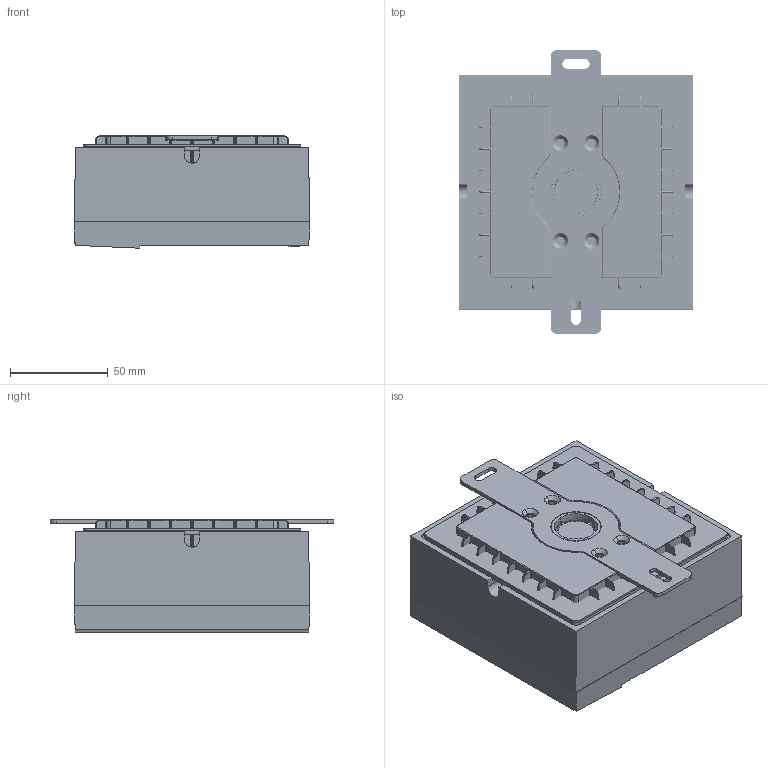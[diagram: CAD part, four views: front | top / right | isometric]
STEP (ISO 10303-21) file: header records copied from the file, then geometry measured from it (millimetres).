
FILE_DESCRIPTION((''),'2;1');
FILE_NAME('120-FBD_ASM','2021-07-26T',('Administrator'),(''),'PRO/ENGINEER BY PARAMETRIC TECHNOLOGY CORPORATION, 2010480','PRO/ENGINEER BY PARAMETRIC TECHNOLOGY CORPORATION, 2010480','');
FILE_SCHEMA(('CONFIG_CONTROL_DESIGN'));
Products named in the file (25): 1CV_; 7SQW18_FL2_15_6; 7SQW16-180-1_14; 120-YMT-DP_2; ZHUAN_JIE_BAN; M5_____; 120-YMT_ASM_10_ASM; 7CV; 7SQW18_KAHUANG_21_9; 120-FSQ_5; SCREW-M12_1_19; XINGUIJIAO_15; GUIJIAOSAI-005_9; LUOMUZUJIAN_ASM_15_ASM; M14_ASM; M4-8; M3-L6; 120-DT_ASM_11_ASM; 1CW; MANIFOLD_SOLID_BREP_69208; 120-MG5-BL_4_ASM; MG5-LJB_4; 1CW_ASM; 120-FBD_ASM_89_ASM; 120-FBD_ASM
Assembly tree (34 placements, depth 6):
  120-FBD_ASM
    120-FBD_ASM_89_ASM
      120-YMT_ASM_10_ASM
        1CV_
        7SQW18_FL2_15_6
        7SQW16-180-1_14
        120-YMT-DP_2
        ZHUAN_JIE_BAN
        M5_____  x2
      120-DT_ASM_11_ASM
        7CV
        7SQW18_KAHUANG_21_9  x4
        120-FSQ_5
        M14_ASM
          LUOMUZUJIAN_ASM_15_ASM
            SCREW-M12_1_19
            XINGUIJIAO_15
            GUIJIAOSAI-005_9
        M4-8  x4
        M3-L6  x4
      1CW_ASM
        1CW
        120-MG5-BL_4_ASM
          MANIFOLD_SOLID_BREP_69208
        MG5-LJB_4
Bounding box: 120.05 x 145 x 57.5 mm (x, y, z)
Volume: 309624.5 mm3; surface area: 330282.5 mm2
Topology: 27 solids, 27 shells, 3625 faces, 9235 edges, 5753 vertices
Faces by surface type: plane 1430, cylinder 1339, bspline 475, cone 176, torus 109, sphere 92, extrusion 4
Entity records: 123010 total; most frequent: CARTESIAN_POINT 49953, ORIENTED_EDGE 15766, DIRECTION 14109, EDGE_CURVE 7883, VERTEX_POINT 4908, AXIS2_PLACEMENT_3D 4801, VECTOR 4507, LINE 4503
